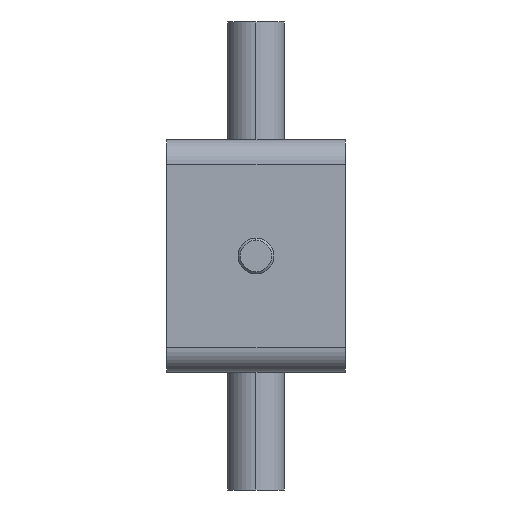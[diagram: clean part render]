
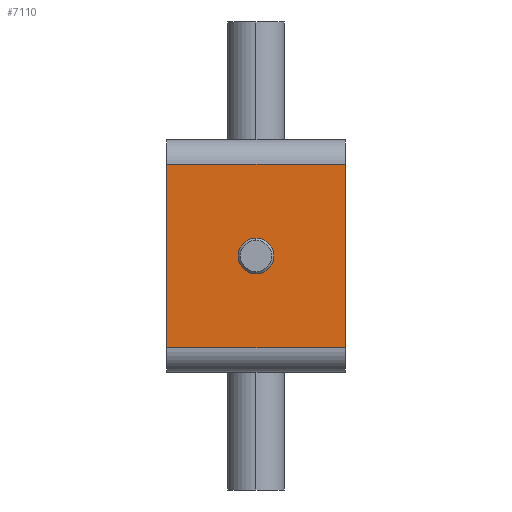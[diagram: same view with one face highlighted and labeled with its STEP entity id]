
A CAD part, left-side view. The second image highlights one B-rep face of the part: STEP entity #7110.
In plain terms, the highlighted planar face has unit normal (-1, 0, 0).
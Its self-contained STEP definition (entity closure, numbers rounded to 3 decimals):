
#240 = EDGE_CURVE ( 'NONE', #2462, #6564, #8543, .T. ) ;
#2271 = CIRCLE ( 'NONE', #17178, 2. ) ;
#2344 = VECTOR ( 'NONE', #16680, 1000. ) ;
#2352 = EDGE_CURVE ( 'NONE', #6456, #6564, #15786, .T. ) ;
#2462 = VERTEX_POINT ( 'NONE', #6450 ) ;
#3043 = EDGE_CURVE ( 'NONE', #26112, #20964, #2271, .T. ) ;
#3886 = AXIS2_PLACEMENT_3D ( 'NONE', #16718, #16855, #22700 ) ;
#4282 = EDGE_CURVE ( 'NONE', #2462, #13484, #19179, .T. ) ;
#5033 = EDGE_LOOP ( 'NONE', ( #5058, #22082, #15404, #20026 ) ) ;
#5058 = ORIENTED_EDGE ( 'NONE', *, *, #25508, .F. ) ;
#5538 = VECTOR ( 'NONE', #11181, 1000. ) ;
#5962 = DIRECTION ( 'NONE',  ( -1., 0., 0. ) ) ;
#5984 = DIRECTION ( 'NONE',  ( -1., 0., 0. ) ) ;
#6120 = DIRECTION ( 'NONE',  ( 0., 0., 1. ) ) ;
#6373 = EDGE_CURVE ( 'NONE', #20964, #26112, #12824, .T. ) ;
#6450 = CARTESIAN_POINT ( 'NONE',  ( 0., 20., 0.737 ) ) ;
#6456 = VERTEX_POINT ( 'NONE', #21381 ) ;
#6564 = VERTEX_POINT ( 'NONE', #25067 ) ;
#7110 = ADVANCED_FACE ( 'NONE', ( #13835, #24051 ), #13953, .T. ) ;
#7656 = CARTESIAN_POINT ( 'NONE',  ( 0., 0., 0. ) ) ;
#8008 = CARTESIAN_POINT ( 'NONE',  ( 0., 20., 24. ) ) ;
#8543 = LINE ( 'NONE', #8008, #2344 ) ;
#8976 = CARTESIAN_POINT ( 'NONE',  ( 0., 10., 13. ) ) ;
#9535 = LINE ( 'NONE', #7656, #14564 ) ;
#9655 = EDGE_LOOP ( 'NONE', ( #23163, #20996 ) ) ;
#9907 = DIRECTION ( 'NONE',  ( 0., 1., 0. ) ) ;
#11002 = VECTOR ( 'NONE', #9907, 1000. ) ;
#11181 = DIRECTION ( 'NONE',  ( 0., -1., 0. ) ) ;
#11685 = DIRECTION ( 'NONE',  ( 0., 0., -1. ) ) ;
#12824 = CIRCLE ( 'NONE', #3886, 2. ) ;
#13484 = VERTEX_POINT ( 'NONE', #20577 ) ;
#13835 = FACE_BOUND ( 'NONE', #9655, .T. ) ;
#13953 = PLANE ( 'NONE',  #22246 ) ;
#14564 = VECTOR ( 'NONE', #11685, 1000. ) ;
#15404 = ORIENTED_EDGE ( 'NONE', *, *, #240, .F. ) ;
#15786 = LINE ( 'NONE', #21912, #11002 ) ;
#16680 = DIRECTION ( 'NONE',  ( 0., 0., 1. ) ) ;
#16718 = CARTESIAN_POINT ( 'NONE',  ( 0., 10., 11. ) ) ;
#16855 = DIRECTION ( 'NONE',  ( -1., 0., 0. ) ) ;
#17178 = AXIS2_PLACEMENT_3D ( 'NONE', #20779, #5984, #6120 ) ;
#19179 = LINE ( 'NONE', #25385, #5538 ) ;
#20026 = ORIENTED_EDGE ( 'NONE', *, *, #4282, .T. ) ;
#20577 = CARTESIAN_POINT ( 'NONE',  ( 0., 0., 0.737 ) ) ;
#20779 = CARTESIAN_POINT ( 'NONE',  ( 0., 10., 11. ) ) ;
#20964 = VERTEX_POINT ( 'NONE', #8976 ) ;
#20996 = ORIENTED_EDGE ( 'NONE', *, *, #3043, .F. ) ;
#21381 = CARTESIAN_POINT ( 'NONE',  ( 0., 0., 21.263 ) ) ;
#21912 = CARTESIAN_POINT ( 'NONE',  ( 0., 0., 21.263 ) ) ;
#22082 = ORIENTED_EDGE ( 'NONE', *, *, #2352, .T. ) ;
#22246 = AXIS2_PLACEMENT_3D ( 'NONE', #24448, #5962, #23925 ) ;
#22700 = DIRECTION ( 'NONE',  ( 0., 0., 1. ) ) ;
#23163 = ORIENTED_EDGE ( 'NONE', *, *, #6373, .F. ) ;
#23925 = DIRECTION ( 'NONE',  ( 0., 0., 1. ) ) ;
#23927 = CARTESIAN_POINT ( 'NONE',  ( 0., 10., 9. ) ) ;
#24051 = FACE_OUTER_BOUND ( 'NONE', #5033, .T. ) ;
#24448 = CARTESIAN_POINT ( 'NONE',  ( 0., 0., 0. ) ) ;
#25067 = CARTESIAN_POINT ( 'NONE',  ( 0., 20., 21.263 ) ) ;
#25385 = CARTESIAN_POINT ( 'NONE',  ( 0., 0., 0.737 ) ) ;
#25508 = EDGE_CURVE ( 'NONE', #6456, #13484, #9535, .T. ) ;
#26112 = VERTEX_POINT ( 'NONE', #23927 ) ;
